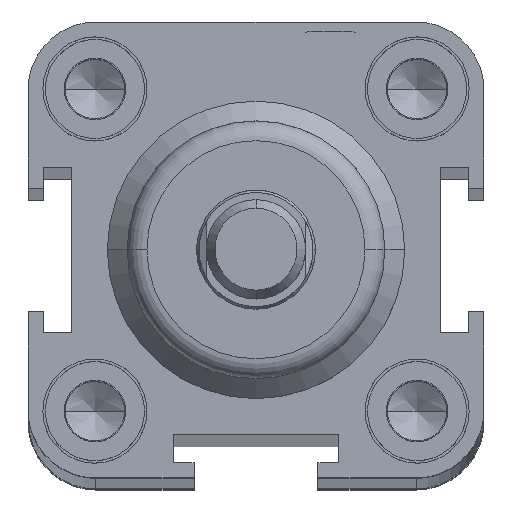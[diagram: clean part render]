
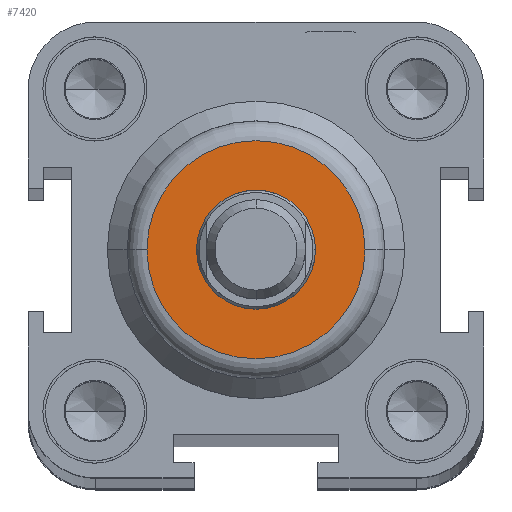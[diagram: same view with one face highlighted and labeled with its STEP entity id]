
A CAD part, top view. The second image highlights one B-rep face of the part: STEP entity #7420.
In plain terms, the highlighted planar face has unit normal (0, 0, 1).
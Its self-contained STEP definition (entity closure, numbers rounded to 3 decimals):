
#1472=CARTESIAN_POINT('',(-11.,0.0,363.0));
#1473=VERTEX_POINT('',#1472);
#1481=CARTESIAN_POINT('',(11.,0.,363.0));
#1482=VERTEX_POINT('',#1481);
#1483=CARTESIAN_POINT('',(0.0,0.0,363.0));
#1484=DIRECTION('',(0.0,0.0,-1.0));
#1485=DIRECTION('',(-1.0,0.0,0.0));
#1486=AXIS2_PLACEMENT_3D('',#1483,#1484,#1485);
#1487=CIRCLE('',#1486,11.);
#1488=EDGE_CURVE('',#1473,#1482,#1487,.T.);
#1593=CARTESIAN_POINT('',(6.,0.0,363.0));
#1594=VERTEX_POINT('',#1593);
#1610=CARTESIAN_POINT('',(-6.,0.,363.0));
#1611=VERTEX_POINT('',#1610);
#1618=CARTESIAN_POINT('',(0.0,0.0,363.0));
#1619=DIRECTION('',(0.0,0.0,-1.0));
#1620=DIRECTION('',(1.0,0.0,0.0));
#1621=AXIS2_PLACEMENT_3D('',#1618,#1619,#1620);
#1622=CIRCLE('',#1621,6.);
#1623=EDGE_CURVE('',#1594,#1611,#1622,.T.);
#7347=CARTESIAN_POINT('',(0.0,0.0,363.0));
#7348=DIRECTION('',(0.0,0.0,-1.0));
#7349=DIRECTION('',(1.0,0.0,0.0));
#7350=AXIS2_PLACEMENT_3D('',#7347,#7348,#7349);
#7351=CIRCLE('',#7350,6.);
#7352=EDGE_CURVE('',#1611,#1594,#7351,.T.);
#7401=CARTESIAN_POINT('',(-5.5,0.0,363.0));
#7402=DIRECTION('',(0.0,0.0,1.0));
#7403=DIRECTION('',(1.0,0.0,0.0));
#7404=AXIS2_PLACEMENT_3D('',#7401,#7402,#7403);
#7405=PLANE('',#7404);
#7406=ORIENTED_EDGE('',*,*,#1488,.F.);
#7407=CARTESIAN_POINT('',(0.0,0.0,363.0));
#7408=DIRECTION('',(0.0,0.0,-1.0));
#7409=DIRECTION('',(-1.0,0.0,0.0));
#7410=AXIS2_PLACEMENT_3D('',#7407,#7408,#7409);
#7411=CIRCLE('',#7410,11.);
#7412=EDGE_CURVE('',#1482,#1473,#7411,.T.);
#7413=ORIENTED_EDGE('',*,*,#7412,.F.);
#7414=EDGE_LOOP('',(#7406,#7413));
#7415=FACE_OUTER_BOUND('',#7414,.T.);
#7416=ORIENTED_EDGE('',*,*,#1623,.T.);
#7417=ORIENTED_EDGE('',*,*,#7352,.T.);
#7418=EDGE_LOOP('',(#7416,#7417));
#7419=FACE_BOUND('',#7418,.T.);
#7420=ADVANCED_FACE('',(#7415,#7419),#7405,.T.);
